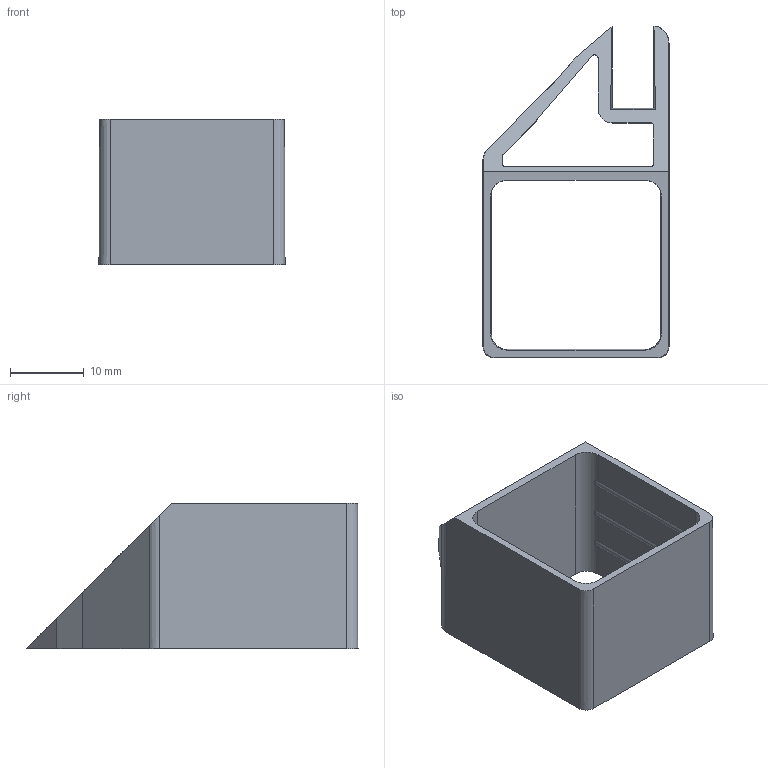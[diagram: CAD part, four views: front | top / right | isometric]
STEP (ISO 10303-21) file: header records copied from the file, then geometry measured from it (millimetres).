
FILE_DESCRIPTION (( 'STEP AP214' ), '1' );
FILE_NAME ('L15879A.step', '2024-12-03T16:20:39', ( '' ), ( '' ), 'SwSTEP 2.0', 'SolidWorks 2023', '' );
FILE_SCHEMA (( 'AUTOMOTIVE_DESIGN' ));
Length unit declared in the file: millimetre
Products named in the file (1): L15879A
Bounding box: 25.3 x 45.15 x 19.85 mm (x, y, z)
Volume: 3515.8 mm3; surface area: 5297.4 mm2
Topology: 1 solids, 1 shells, 67 faces, 171 edges, 106 vertices
Faces by surface type: plane 32, cylinder 25, bspline 6, cone 4
Entity records: 2170 total; most frequent: CARTESIAN_POINT 555, ORIENTED_EDGE 342, DIRECTION 321, EDGE_CURVE 171, LINE 113, VECTOR 113, VERTEX_POINT 106, AXIS2_PLACEMENT_3D 104
